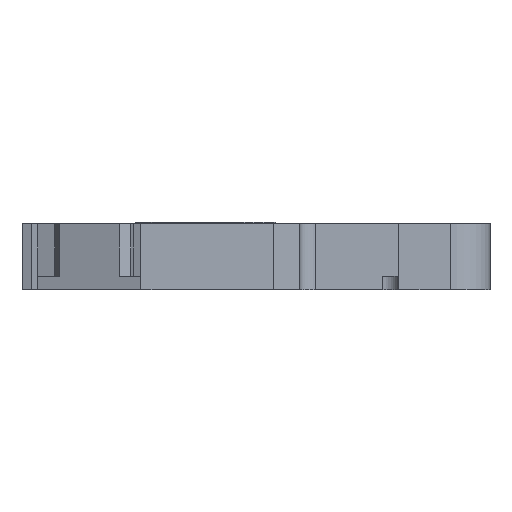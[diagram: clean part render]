
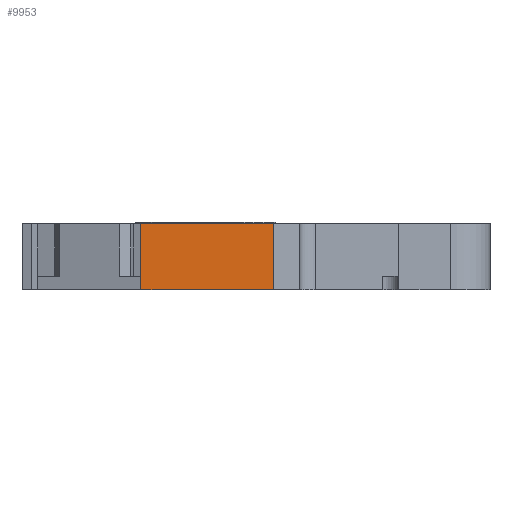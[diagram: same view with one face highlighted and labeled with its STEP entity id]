
A CAD part, left-side view. The second image highlights one B-rep face of the part: STEP entity #9953.
In plain terms, the highlighted planar face has unit normal (-1, 0, 0).
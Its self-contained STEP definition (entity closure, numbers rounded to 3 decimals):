
#634 = DIRECTION ( 'NONE',  ( -1., 0., 0. ) ) ;
#964 = VECTOR ( 'NONE', #7335, 1000. ) ;
#1300 = CARTESIAN_POINT ( 'NONE',  ( -60.95, 9.5, 0. ) ) ;
#1384 = ORIENTED_EDGE ( 'NONE', *, *, #10036, .F. ) ;
#1782 = CARTESIAN_POINT ( 'NONE',  ( -60.95, 9.5, 5. ) ) ;
#2068 = CARTESIAN_POINT ( 'NONE',  ( -60.95, 19.5, 5. ) ) ;
#2768 = VECTOR ( 'NONE', #8093, 1000. ) ;
#4026 = EDGE_CURVE ( 'NONE', #11940, #7550, #11054, .T. ) ;
#4191 = LINE ( 'NONE', #6170, #5412 ) ;
#4635 = PLANE ( 'NONE',  #9145 ) ;
#5412 = VECTOR ( 'NONE', #10764, 1000. ) ;
#5868 = EDGE_CURVE ( 'NONE', #6444, #11998, #16921, .T. ) ;
#6170 = CARTESIAN_POINT ( 'NONE',  ( -60.95, 19.5, 5. ) ) ;
#6186 = CARTESIAN_POINT ( 'NONE',  ( -60.95, 19.5, 5. ) ) ;
#6444 = VERTEX_POINT ( 'NONE', #1782 ) ;
#7335 = DIRECTION ( 'NONE',  ( 0., -1., 0. ) ) ;
#7550 = VERTEX_POINT ( 'NONE', #1300 ) ;
#8054 = CARTESIAN_POINT ( 'NONE',  ( -60.95, 19.5, 5. ) ) ;
#8093 = DIRECTION ( 'NONE',  ( 0., 0., -1. ) ) ;
#8158 = EDGE_LOOP ( 'NONE', ( #14720, #1384, #12487, #11089 ) ) ;
#8959 = LINE ( 'NONE', #15831, #2768 ) ;
#9145 = AXIS2_PLACEMENT_3D ( 'NONE', #2068, #634, #10673 ) ;
#9953 = ADVANCED_FACE ( 'NONE', ( #13540 ), #4635, .T. ) ;
#10036 = EDGE_CURVE ( 'NONE', #6444, #7550, #8959, .T. ) ;
#10673 = DIRECTION ( 'NONE',  ( 0., 0., 1. ) ) ;
#10764 = DIRECTION ( 'NONE',  ( 0., 0., -1. ) ) ;
#11054 = LINE ( 'NONE', #13342, #964 ) ;
#11089 = ORIENTED_EDGE ( 'NONE', *, *, #14953, .T. ) ;
#11940 = VERTEX_POINT ( 'NONE', #13639 ) ;
#11998 = VERTEX_POINT ( 'NONE', #6186 ) ;
#12487 = ORIENTED_EDGE ( 'NONE', *, *, #5868, .T. ) ;
#13342 = CARTESIAN_POINT ( 'NONE',  ( -60.95, 19.5, 0. ) ) ;
#13540 = FACE_OUTER_BOUND ( 'NONE', #8158, .T. ) ;
#13639 = CARTESIAN_POINT ( 'NONE',  ( -60.95, 19.5, 0. ) ) ;
#13779 = DIRECTION ( 'NONE',  ( 0., 1., 0. ) ) ;
#14720 = ORIENTED_EDGE ( 'NONE', *, *, #4026, .T. ) ;
#14953 = EDGE_CURVE ( 'NONE', #11998, #11940, #4191, .T. ) ;
#15831 = CARTESIAN_POINT ( 'NONE',  ( -60.95, 9.5, 5. ) ) ;
#16499 = VECTOR ( 'NONE', #13779, 1000. ) ;
#16921 = LINE ( 'NONE', #8054, #16499 ) ;
